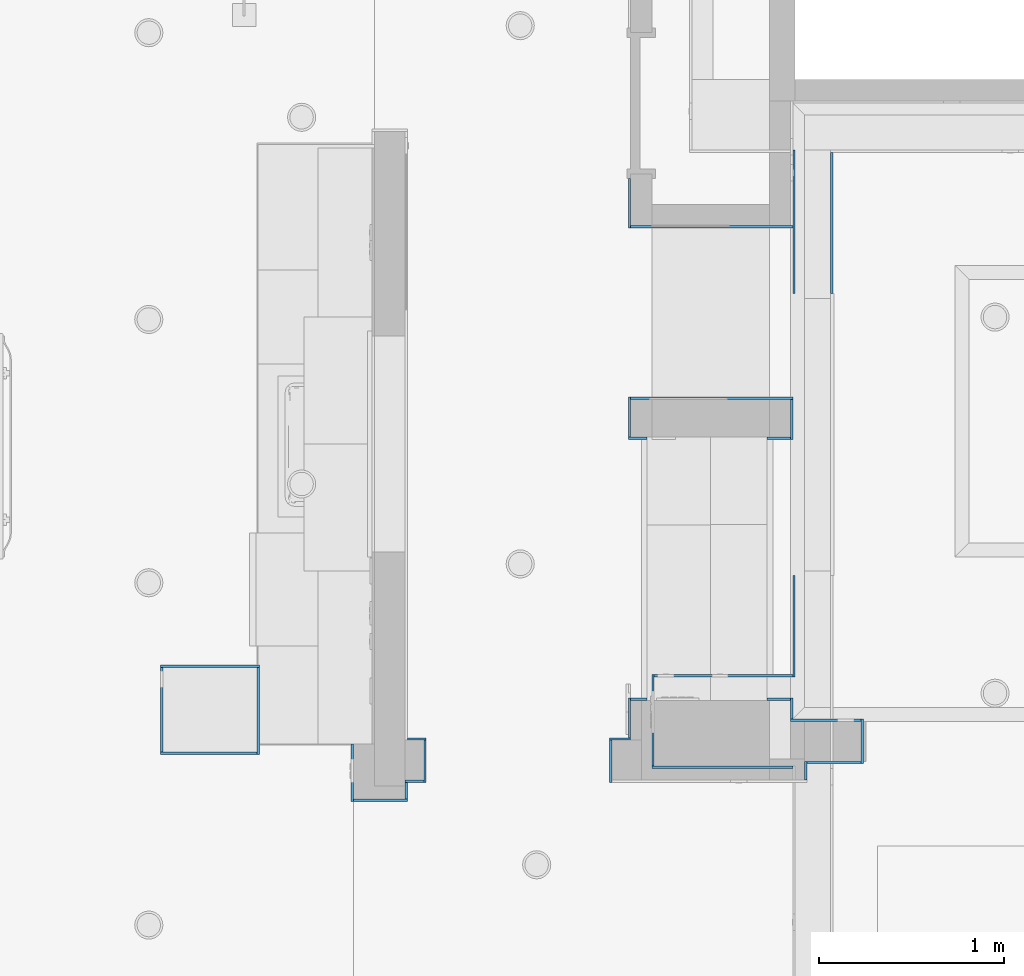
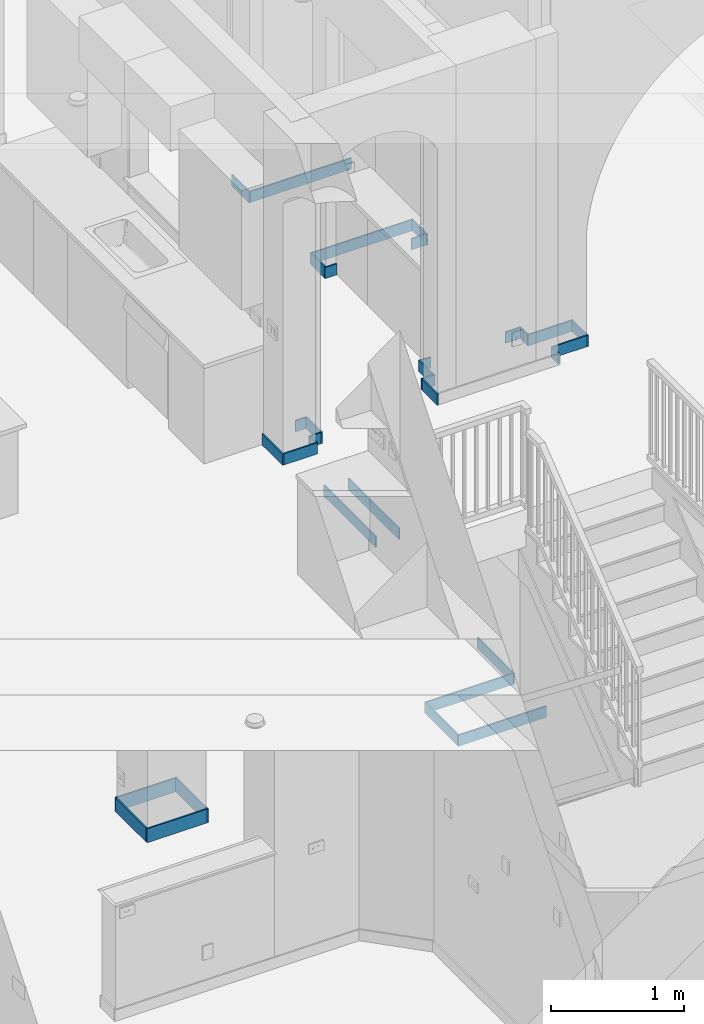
# One storey, part 17 of 60: 33 walls.
"""IFC2X3 building model written with IfcOpenShell, lengths in feet."""

import ifcopenshell
import ifcopenshell.guid

model = None  # the IFC model being written
_history = None  # IfcOwnerHistory: only IFC2X3 demands one
_inside = {}  # id of a spatial element -> (the spatial element, [elements in it])
_under = {}  # id of a project, library or spatial element -> (it, [spatial elements below it])
_declared = {}  # id of a project -> (the project, [libraries it declares])
_typed = {}  # id of a type object -> (the type object, [elements of that type])
_made_of = {}  # id of a material, layer set ... -> (it, [elements and type objects made of it])


def new_model(schema):
    """Start an empty IFC model of exactly this schema.

    Asked for "IFC4X3", IfcOpenShell would pick the latest addendum, in which some entities
    have other attributes; the version numbers below select the first issue.
    IFC2X3 requires an IfcOwnerHistory on every rooted entity: one is made here for all.
    """
    global model, _history
    if schema == "IFC4X3":
        model = ifcopenshell.file(schema_version=(4, 3, 0, 0))
    else:
        model = ifcopenshell.file(schema=schema)
    _inside.clear()
    _under.clear()
    _declared.clear()
    _typed.clear()
    _made_of.clear()
    _history = None
    if model.schema == "IFC2X3":
        org = make("IfcOrganization", Name="unknown")
        user = make(
            "IfcPersonAndOrganization",
            ThePerson=make("IfcPerson", FamilyName="unknown"),
            TheOrganization=org,
        )
        app = make(
            "IfcApplication",
            ApplicationDeveloper=org,
            Version="unknown",
            ApplicationFullName="unknown",
            ApplicationIdentifier="unknown",
        )
        _history = make(
            "IfcOwnerHistory",
            OwningUser=user,
            OwningApplication=app,
            ChangeAction="ADDED",
            CreationDate=0,
        )
    return model


def make(cls, **values):
    """One entity of the class cls with the attributes given. An attribute that is None is left unset."""
    return model.create_entity(
        cls, **{name: value for name, value in values.items() if value is not None}
    )


def entity(cls, *values):
    """Any entity or typed value of the class cls, its attributes in the order of the schema. None: left unset."""
    e = model.create_entity(cls)
    for i, value in enumerate(values):
        if value is not None:
            e[i] = value
    return e


def rooted(cls, **values):
    """An entity with a GlobalId (a new one), such as an element, a storey or a relation."""
    return make(cls, GlobalId=ifcopenshell.guid.new(), OwnerHistory=_history, **values)


def si_unit(unit_type, name, prefix=None):
    """IfcSIUnit, for example si_unit("LENGTHUNIT", "METRE", prefix="MILLI")."""
    return make("IfcSIUnit", UnitType=unit_type, Prefix=prefix, Name=name)


def converted_unit(unit_type, name, factor, base, dimensions=None, offset=None):
    """IfcConversionBasedUnit, such as the inch: factor (a typed value) times the base unit."""
    return make(
        "IfcConversionBasedUnit"
        if offset is None
        else "IfcConversionBasedUnitWithOffset",
        ConversionOffset=offset,
        Dimensions=None
        if dimensions is None
        else entity("IfcDimensionalExponents", *dimensions),
        UnitType=unit_type,
        Name=name,
        ConversionFactor=make(
            "IfcMeasureWithUnit", ValueComponent=factor, UnitComponent=base
        ),
    )


def assignment(units):
    """IfcUnitAssignment: the units of a project."""
    return None if units is None else make("IfcUnitAssignment", Units=units)


def point(xyz):
    """IfcCartesianPoint."""
    return None if xyz is None else make("IfcCartesianPoint", Coordinates=xyz)


def direction(xyz):
    """IfcDirection."""
    return None if xyz is None else make("IfcDirection", DirectionRatios=xyz)


def frame(location, z_axis=None, x_axis=None):
    """IfcAxis2Placement3D, a coordinate frame: its origin and axes. An axis left out is left unset."""
    return make(
        "IfcAxis2Placement3D",
        Location=point(location),
        Axis=direction(z_axis),
        RefDirection=direction(x_axis),
    )


def frame_2d(location, x_axis=None):
    """IfcAxis2Placement2D, a coordinate frame in the plane: its origin and x axis."""
    return make(
        "IfcAxis2Placement2D", Location=point(location), RefDirection=direction(x_axis)
    )


def origin():
    """The frame at (0, 0, 0) with its axes left unset."""
    return frame((0.0, 0.0, 0.0))


def place(relative_to, where):
    """IfcLocalPlacement: puts the frame where relative to a parent placement (None: the world)."""
    return make(
        "IfcLocalPlacement", PlacementRelTo=relative_to, RelativePlacement=where
    )


def context(
    kind, dimensions, precision=None, world=None, true_north=None, identifier=None
):
    """IfcGeometricRepresentationContext, for example the 3D "Model" context."""
    return make(
        "IfcGeometricRepresentationContext",
        ContextIdentifier=identifier,
        ContextType=kind,
        CoordinateSpaceDimension=dimensions,
        Precision=precision,
        WorldCoordinateSystem=world,
        TrueNorth=true_north,
    )


def subcontext(parent, identifier, kind, view, scale=None):
    """IfcGeometricRepresentationSubContext, for example "Body" below "Model"."""
    return make(
        "IfcGeometricRepresentationSubContext",
        ContextIdentifier=identifier,
        ContextType=kind,
        ParentContext=parent,
        TargetScale=scale,
        TargetView=view,
    )


def project(units=None, contexts=None):
    """IfcProject with its units and contexts."""
    return rooted(
        "IfcProject",
        Name="project",
        RepresentationContexts=contexts,
        UnitsInContext=assignment(units),
    )


def spatial(cls, under=None, at=None, **own):
    """A site, building, storey or space (cls), placed at a placement, below another one or the project."""
    s = rooted(cls, ObjectPlacement=at, **own)
    if under is not None:
        _under.setdefault(under.id(), (under, []))[1].append(s)
    return s


def profile(cls, at=None, kind="AREA", **sizes):
    """A parametric profile (cls). Its sizes go by their IFC names, for example OverallWidth=200.0."""
    return make(cls, ProfileType=kind, Position=at, **sizes)


def rectangle(**sizes):
    """IfcRectangleProfileDef."""
    return profile("IfcRectangleProfileDef", **sizes)


def extrude(swept, where, along, depth):
    """IfcExtrudedAreaSolid: the profile swept, set in the frame where, extruded along a direction by depth."""
    return make(
        "IfcExtrudedAreaSolid",
        SweptArea=swept,
        Position=where,
        ExtrudedDirection=direction(along),
        Depth=depth,
    )


def shape(context_of_items, identifier, shape_type, items):
    """IfcShapeRepresentation: the items that make up one representation, for example the "Body"."""
    return make(
        "IfcShapeRepresentation",
        ContextOfItems=context_of_items,
        RepresentationIdentifier=identifier,
        RepresentationType=shape_type,
        Items=items,
    )


def material(Name=None, Category=None):
    """IfcMaterial."""
    return make("IfcMaterial", Name=Name, Category=Category)


def layer(
    of_material, thickness, ventilated=None, Name=None, Category=None, Priority=None
):
    """IfcMaterialLayer: one layer of a wall or slab, of a material (None: an air gap)."""
    return make(
        "IfcMaterialLayer",
        Material=of_material,
        LayerThickness=thickness,
        IsVentilated=ventilated,
        Name=Name,
        Category=Category,
        Priority=Priority,
    )


def layer_set(layers, Name=None):
    """IfcMaterialLayerSet."""
    return make("IfcMaterialLayerSet", MaterialLayers=layers, LayerSetName=Name)


def layer_usage(for_layer_set, set_direction, sense, offset, extent=None):
    """IfcMaterialLayerSetUsage: how a layer set lies in its element."""
    return make(
        "IfcMaterialLayerSetUsage",
        ForLayerSet=for_layer_set,
        LayerSetDirection=set_direction,
        DirectionSense=sense,
        OffsetFromReferenceLine=offset,
        ReferenceExtent=extent,
    )


def made_of(thing, what):
    """Note that an element or type object is made of a material, layer set ...; save() writes the relation."""
    if what is not None:
        _made_of.setdefault(what.id(), (what, []))[1].append(thing)
    return thing


def type_object(cls, material=None, **own):
    """A type object (cls), such as IfcWallType, which elements share."""
    return made_of(rooted(cls, **own), material)


def element(
    cls,
    number,
    at=None,
    inside=None,
    cuts=None,
    type_object=None,
    material=None,
    context=None,
    identifier="Body",
    shape_type=None,
    held_by="IfcProductDefinitionShape",
    body=None,
    shapes=None,
    **own,
):
    """One element of the class cls, such as IfcWall. Its Tag is "e" and its number.

    at: its placement. inside: the storey or other place that contains it. cuts: it is an
    opening in that element (IfcRelVoidsElement). A single representation is given by context,
    identifier, shape_type and body (its items); several are given by shapes. held_by: the class
    of the entity that holds the representations. save() writes the other relations.
    """
    e = rooted(cls, Tag="e%d" % number, ObjectPlacement=at, **own)
    if body is not None:
        shapes = [shape(context, identifier, shape_type, body)]
    if shapes is not None:
        e.Representation = make(held_by, Representations=shapes)
    if inside is not None:
        _inside.setdefault(inside.id(), (inside, []))[1].append(e)
    if cuts is not None:
        rooted(
            "IfcRelVoidsElement", RelatingBuildingElement=cuts, RelatedOpeningElement=e
        )
    if type_object is not None:
        _typed.setdefault(type_object.id(), (type_object, []))[1].append(e)
    return made_of(e, material)


def aggregate(whole, parts):
    """IfcRelAggregates: a whole, such as a stair, and the parts it consists of."""
    return rooted("IfcRelAggregates", RelatingObject=whole, RelatedObjects=parts)


def save(model, path):
    """Write the relations noted so far, then the file.

    IfcRelAggregates (storeys below a building ...), IfcRelContainedInSpatialStructure (elements
    in a storey), IfcRelDefinesByType, IfcRelAssociatesMaterial and IfcRelDeclares: one each for
    every whole, place, type object, material and project.
    """
    for whole, parts in _under.values():
        aggregate(whole, parts)
    for where, things in _inside.values():
        rooted(
            "IfcRelContainedInSpatialStructure",
            RelatedElements=things,
            RelatingStructure=where,
        )
    for kind, things in _typed.values():
        rooted("IfcRelDefinesByType", RelatedObjects=things, RelatingType=kind)
    for what, things in _made_of.values():
        rooted("IfcRelAssociatesMaterial", RelatedObjects=things, RelatingMaterial=what)
    for by, libraries in _declared.values():
        rooted("IfcRelDeclares", RelatingContext=by, RelatedDefinitions=libraries)
    model.write(path)


model = new_model("IFC2X3")

# Units and contexts
model_context = context("Model", 3, precision=0.0001, world=origin(), true_north=direction((6.123031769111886e-17, 1.0)))
plan_context = context("Plan", 3, precision=0.0001, world=origin(), true_north=direction((6.123031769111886e-17, 1.0)))
body_context = subcontext(model_context, "Body", "Model", "MODEL_VIEW")
ifc_project = project(units=[converted_unit("LENGTHUNIT", "FOOT", entity("IfcLengthMeasure", 0.3048), si_unit("LENGTHUNIT", "METRE"), dimensions=[1, 0, 0, 0, 0, 0, 0]), converted_unit("AREAUNIT", "SQUARE FOOT", entity("IfcAreaMeasure", 0.09290304), si_unit("AREAUNIT", "SQUARE_METRE"), dimensions=[2, 0, 0, 0, 0, 0, 0]), converted_unit("PLANEANGLEUNIT", "DEGREE", entity("IfcPlaneAngleMeasure", 0.017453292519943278), si_unit("PLANEANGLEUNIT", "RADIAN"), dimensions=[0, 0, 0, 0, 0, 0, 0])], contexts=[model_context, plan_context])

# Site, building, storey
site_placement = place(None, origin())
site = spatial("IfcSite", under=ifc_project, at=site_placement, Name="Default", CompositionType="ELEMENT")
building_placement = place(site_placement, origin())
building = spatial("IfcBuilding", under=site, at=building_placement, CompositionType="ELEMENT")
storey_placement = place(building_placement, origin())
storey = spatial("IfcBuildingStorey", under=building, at=storey_placement, Name="First floor", CompositionType="ELEMENT", Elevation=0.0)

# Walls
ifc_material = material(Name="Default New Material")
ifc_layer = layer(ifc_material, 0.041666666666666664)
ifc_layer_set = layer_set([ifc_layer], Name="Basic Wall:Wall Border_T1")
ifc_layer_usage_1 = layer_usage(ifc_layer_set, "AXIS2", "NEGATIVE", 0.020833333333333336)
wall_type = type_object("IfcWallType", Name="Basic Wall:Wall Border_T1", PredefinedType="STANDARD", material=ifc_layer_set)
wall_1_placement = place(storey_placement, frame((21.020833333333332, 26.833333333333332, 0.0), z_axis=(0.0, 0.0, 1.0), x_axis=(0.0, -1.0, 0.0)))
element("IfcWallStandardCase", 1, at=wall_1_placement, inside=storey, type_object=wall_type, material=ifc_layer_usage_1, Name="Basic Wall:Wall Border_T1", ObjectType="Basic Wall:Wall Border_T1", context=body_context, shape_type="SweptSolid", body=[
    extrude(rectangle(XDim=2.4999999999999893, YDim=0.0416666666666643, at=frame_2d((1.2499999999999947, -1.1102230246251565e-16), x_axis=(-1.0, 0.0))), origin(), (0.0, 0.0, 1.0), 0.3333333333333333),
])
ifc_layer_usage_2 = layer_usage(ifc_layer_set, "AXIS2", "POSITIVE", -0.020833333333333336)
wall_2_placement = place(storey_placement, frame((20.354166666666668, 26.875, 0.0), z_axis=(0.0, 0.0, 1.0), x_axis=(0.0, -1.0, 0.0)))
element("IfcWallStandardCase", 2, at=wall_2_placement, inside=storey, type_object=wall_type, material=ifc_layer_usage_2, Name="Basic Wall:Wall Border_T1", ObjectType="Basic Wall:Wall Border_T1", context=body_context, shape_type="SweptSolid", body=[
    extrude(rectangle(XDim=2.5416666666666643, YDim=0.0416666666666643, at=frame_2d((1.2708333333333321, 1.5785983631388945e-16), x_axis=(-1.0, 0.0))), origin(), (0.0, 0.0, 1.0), 0.3333333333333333),
])
ifc_layer_usage_3 = layer_usage(ifc_layer_set, "AXIS2", "POSITIVE", -0.020833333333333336)
wall_3_placement = place(storey_placement, frame((20.354166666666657, 19.33333333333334, 0.0), z_axis=(0.0, 0.0, 1.0), x_axis=(0.0, -1.0, 0.0)))
element("IfcWallStandardCase", 3, at=wall_3_placement, inside=storey, type_object=wall_type, material=ifc_layer_usage_3, Name="Basic Wall:Wall Border_T1", ObjectType="Basic Wall:Wall Border_T1", context=body_context, shape_type="SweptSolid", body=[
    extrude(rectangle(XDim=1.7916666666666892, YDim=0.0416666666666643, at=frame_2d((0.8958333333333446, -4.128641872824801e-16), x_axis=(-1.0, 0.0))), origin(), (0.0, 0.0, 1.0), 0.3333333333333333),
])
ifc_layer_usage_4 = layer_usage(ifc_layer_set, "AXIS2", "NEGATIVE", 0.020833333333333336)
wall_4_placement = place(storey_placement, frame((13.500000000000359, 16.43715483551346, 10.666666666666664)))
element("IfcWallStandardCase", 4, at=wall_4_placement, inside=storey, type_object=wall_type, material=ifc_layer_usage_4, Name="Basic Wall:Wall Border_T1", ObjectType="Basic Wall:Wall Border_T1", context=body_context, shape_type="SweptSolid", body=[
    extrude(rectangle(XDim=0.3333333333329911, YDim=0.0416666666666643, at=frame_2d((0.16666666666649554, 0.0), x_axis=(-1.0, 0.0))), origin(), (0.0, 0.0, 1.0), 0.3333333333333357),
])
ifc_layer_usage_5 = layer_usage(ifc_layer_set, "AXIS2", "NEGATIVE", 0.020833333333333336)
wall_5_placement = place(storey_placement, frame((13.812500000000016, 16.416321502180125, 10.666666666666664), z_axis=(0.0, 0.0, 1.0), x_axis=(0.0, -1.0, 0.0)))
element("IfcWallStandardCase", 5, at=wall_5_placement, inside=storey, type_object=wall_type, material=ifc_layer_usage_5, Name="Basic Wall:Wall Border_T1", ObjectType="Basic Wall:Wall Border_T1", context=body_context, shape_type="SweptSolid", body=[
    extrude(rectangle(XDim=0.75, YDim=0.04166666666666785, at=frame_2d((0.375, -2.2898349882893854e-16), x_axis=(-1.0, 0.0))), origin(), (0.0, 0.0, 1.0), 0.3333333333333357),
])
ifc_layer_usage_6 = layer_usage(ifc_layer_set, "AXIS2", "NEGATIVE", 0.020833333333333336)
wall_6_placement = place(storey_placement, frame((13.791666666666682, 15.687154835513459, 10.666666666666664), z_axis=(0.0, 0.0, 1.0), x_axis=(-1.0, 0.0, 0.0)))
element("IfcWallStandardCase", 6, at=wall_6_placement, inside=storey, type_object=wall_type, material=ifc_layer_usage_6, Name="Basic Wall:Wall Border_T1", ObjectType="Basic Wall:Wall Border_T1", context=body_context, shape_type="SweptSolid", body=[
    extrude(rectangle(XDim=0.33333333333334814, YDim=0.04166666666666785, at=frame_2d((0.16666666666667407, 3.5908775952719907e-16), x_axis=(-1.0, 0.0))), origin(), (0.0, 0.0, 1.0), 0.3333333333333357),
])
ifc_layer_usage_7 = layer_usage(ifc_layer_set, "AXIS2", "POSITIVE", -0.020833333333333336)
wall_7_placement = place(storey_placement, frame((17.43750000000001, 26.3746548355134, 10.666666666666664), z_axis=(0.0, 0.0, 1.0), x_axis=(0.0, -1.0, 0.0)))
element("IfcWallStandardCase", 7, at=wall_7_placement, inside=storey, type_object=wall_type, material=ifc_layer_usage_7, Name="Basic Wall:Wall Border_T1", ObjectType="Basic Wall:Wall Border_T1", context=body_context, shape_type="SweptSolid", body=[
    extrude(rectangle(XDim=0.8749999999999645, YDim=0.0416666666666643, at=frame_2d((0.43749999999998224, 0.0), x_axis=(-1.0, 0.0))), origin(), (0.0, 0.0, 1.0), 0.3333333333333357),
])
ifc_layer_usage_8 = layer_usage(ifc_layer_set, "AXIS2", "POSITIVE", -0.020833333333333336)
wall_8_placement = place(storey_placement, frame((17.458333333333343, 25.52048816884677, 10.666666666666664)))
element("IfcWallStandardCase", 8, at=wall_8_placement, inside=storey, type_object=wall_type, material=ifc_layer_usage_8, Name="Basic Wall:Wall Border_T1", ObjectType="Basic Wall:Wall Border_T1", context=body_context, shape_type="SweptSolid", body=[
    extrude(rectangle(XDim=2.874999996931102, YDim=0.0416666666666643, at=frame_2d((1.437499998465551, 7.806255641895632e-17), x_axis=(-1.0, 0.0))), origin(), (0.0, 0.0, 1.0), 0.3333333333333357),
])
ifc_layer_usage_9 = layer_usage(ifc_layer_set, "AXIS2", "NEGATIVE", 0.020833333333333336)
wall_9_placement = place(storey_placement, frame((17.083333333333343, 16.437154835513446, 10.666666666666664)))
element("IfcWallStandardCase", 9, at=wall_9_placement, inside=storey, type_object=wall_type, material=ifc_layer_usage_9, Name="Basic Wall:Wall Border_T1", ObjectType="Basic Wall:Wall Border_T1", context=body_context, shape_type="SweptSolid", body=[
    extrude(rectangle(XDim=0.37499999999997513, YDim=0.0416666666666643, at=frame_2d((0.18749999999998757, 0.0), x_axis=(-1.0, 0.0))), origin(), (0.0, 0.0, 1.0), 0.3333333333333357),
])
ifc_layer_usage_10 = layer_usage(ifc_layer_set, "AXIS2", "NEGATIVE", 0.020833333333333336)
wall_10_placement = place(storey_placement, frame((17.437499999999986, 16.45798816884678, 10.666666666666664), z_axis=(0.0, 0.0, 1.0), x_axis=(0.0, 1.0, 0.0)))
element("IfcWallStandardCase", 10, at=wall_10_placement, inside=storey, type_object=wall_type, material=ifc_layer_usage_10, Name="Basic Wall:Wall Border_T1", ObjectType="Basic Wall:Wall Border_T1", context=body_context, shape_type="SweptSolid", body=[
    extrude(rectangle(XDim=0.708333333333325, YDim=0.0416666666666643, at=frame_2d((0.3541666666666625, 0.0), x_axis=(-1.0, 0.0))), origin(), (0.0, 0.0, 1.0), 0.3333333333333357),
])
ifc_layer_usage_11 = layer_usage(ifc_layer_set, "AXIS2", "POSITIVE", -0.020833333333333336)
wall_11_placement = place(storey_placement, frame((17.10416666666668, 16.41632150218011, 10.666666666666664), z_axis=(0.0, 0.0, 1.0), x_axis=(0.0, -1.0, 0.0)))
element("IfcWallStandardCase", 11, at=wall_11_placement, inside=storey, type_object=wall_type, material=ifc_layer_usage_11, Name="Basic Wall:Wall Border_T1", ObjectType="Basic Wall:Wall Border_T1", context=body_context, shape_type="SweptSolid", body=[
    extrude(rectangle(XDim=0.7499999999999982, YDim=0.0416666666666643, at=frame_2d((0.3749999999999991, 0.0), x_axis=(-1.0, 0.0))), origin(), (0.0, 0.0, 1.0), 0.3333333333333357),
])
ifc_layer_usage_12 = layer_usage(ifc_layer_set, "AXIS2", "POSITIVE", -0.020833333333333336)
wall_12_placement = place(storey_placement, frame((20.562499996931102, 15.707988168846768, 10.666666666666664), z_axis=(0.0, 0.0, 1.0), x_axis=(0.0, 1.0, 0.0)))
element("IfcWallStandardCase", 12, at=wall_12_placement, inside=storey, type_object=wall_type, material=ifc_layer_usage_12, Name="Basic Wall:Wall Border_T1", ObjectType="Basic Wall:Wall Border_T1", context=body_context, shape_type="SweptSolid", body=[
    extrude(rectangle(XDim=0.3336788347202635, YDim=0.0416666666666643, at=frame_2d((0.16683941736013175, 0.0), x_axis=(-1.0, 0.0))), origin(), (0.0, 0.0, 1.0), 0.3333333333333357),
])
ifc_layer_usage_13 = layer_usage(ifc_layer_set, "AXIS2", "POSITIVE", -0.020833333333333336)
wall_13_placement = place(storey_placement, frame((20.583333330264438, 16.0208336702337, 10.666666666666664)))
element("IfcWallStandardCase", 13, at=wall_13_placement, inside=storey, type_object=wall_type, material=ifc_layer_usage_13, Name="Basic Wall:Wall Border_T1", ObjectType="Basic Wall:Wall Border_T1", context=body_context, shape_type="SweptSolid", body=[
    extrude(rectangle(XDim=0.9588346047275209, YDim=0.0416666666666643, at=frame_2d((0.47941730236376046, -7.45931094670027e-17), x_axis=(-1.0, 0.0))), origin(), (0.0, 0.0, 1.0), 0.3333333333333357),
])
ifc_layer_usage_14 = layer_usage(ifc_layer_set, "AXIS2", "POSITIVE", -0.020833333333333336)
wall_14_placement = place(storey_placement, frame((21.542167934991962, 16.770833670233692, 10.666666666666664), z_axis=(0.0, 0.0, 1.0), x_axis=(-1.0, 0.0, 0.0)))
element("IfcWallStandardCase", 14, at=wall_14_placement, inside=storey, type_object=wall_type, material=ifc_layer_usage_14, Name="Basic Wall:Wall Border_T1", ObjectType="Basic Wall:Wall Border_T1", context=body_context, shape_type="SweptSolid", body=[
    extrude(rectangle(XDim=1.2505012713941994, YDim=0.0416666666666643, at=frame_2d((0.6252506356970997, -5.724587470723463e-17), x_axis=(-1.0, 0.0))), origin(), (0.0, 0.0, 1.0), 0.3333333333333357),
])
ifc_layer_usage_15 = layer_usage(ifc_layer_set, "AXIS2", "POSITIVE", -0.020833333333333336)
wall_15_placement = place(storey_placement, frame((20.312499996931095, 16.79166700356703, 10.666666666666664), z_axis=(0.0, 0.0, 1.0), x_axis=(0.0, 1.0, 0.0)))
element("IfcWallStandardCase", 15, at=wall_15_placement, inside=storey, type_object=wall_type, material=ifc_layer_usage_15, Name="Basic Wall:Wall Border_T1", ObjectType="Basic Wall:Wall Border_T1", context=body_context, shape_type="SweptSolid", body=[
    extrude(rectangle(XDim=0.37465449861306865, YDim=0.0416666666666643, at=frame_2d((0.18732724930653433, 0.0), x_axis=(-1.0, 0.0))), origin(), (0.0, 0.0, 1.0), 0.3333333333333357),
])
ifc_layer_usage_16 = layer_usage(ifc_layer_set, "AXIS2", "POSITIVE", -0.020833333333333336)
wall_16_placement = place(storey_placement, frame((20.291666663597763, 17.145488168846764, 10.666666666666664), z_axis=(0.0, 0.0, 1.0), x_axis=(-1.0, 0.0, 0.0)))
element("IfcWallStandardCase", 16, at=wall_16_placement, inside=storey, type_object=wall_type, material=ifc_layer_usage_16, Name="Basic Wall:Wall Border_T1", ObjectType="Basic Wall:Wall Border_T1", context=body_context, shape_type="SweptSolid", body=[
    extrude(rectangle(XDim=0.41666666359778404, YDim=0.0416666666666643, at=frame_2d((0.20833333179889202, 0.0), x_axis=(-1.0, 0.0))), origin(), (0.0, 0.0, 1.0), 0.3333333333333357),
])
ifc_layer_usage_17 = layer_usage(ifc_layer_set, "AXIS2", "NEGATIVE", 0.020833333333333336)
wall_17_placement = place(storey_placement, frame((17.75000000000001, 21.770488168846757, 10.666666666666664), z_axis=(0.0, 0.0, 1.0), x_axis=(-1.0, 0.0, 0.0)))
element("IfcWallStandardCase", 17, at=wall_17_placement, inside=storey, type_object=wall_type, material=ifc_layer_usage_17, Name="Basic Wall:Wall Border_T1", ObjectType="Basic Wall:Wall Border_T1", context=body_context, shape_type="SweptSolid", body=[
    extrude(rectangle(XDim=0.3333333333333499, YDim=0.0416666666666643, at=frame_2d((0.16666666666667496, 0.0), x_axis=(-1.0, 0.0))), origin(), (0.0, 0.0, 1.0), 0.3333333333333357),
])
ifc_layer_usage_18 = layer_usage(ifc_layer_set, "AXIS2", "NEGATIVE", 0.020833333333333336)
wall_18_placement = place(storey_placement, frame((17.437499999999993, 21.791321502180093, 10.666666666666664), z_axis=(0.0, 0.0, 1.0), x_axis=(0.0, 1.0, 0.0)))
element("IfcWallStandardCase", 18, at=wall_18_placement, inside=storey, type_object=wall_type, material=ifc_layer_usage_18, Name="Basic Wall:Wall Border_T1", ObjectType="Basic Wall:Wall Border_T1", context=body_context, shape_type="SweptSolid", body=[
    extrude(rectangle(XDim=0.7083333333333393, YDim=0.0416666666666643, at=frame_2d((0.3541666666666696, 0.0), x_axis=(-1.0, 0.0))), origin(), (0.0, 0.0, 1.0), 0.3333333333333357),
])
ifc_layer_usage_19 = layer_usage(ifc_layer_set, "AXIS2", "NEGATIVE", 0.020833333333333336)
wall_19_placement = place(storey_placement, frame((17.45833333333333, 22.4788215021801, 10.666666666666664)))
element("IfcWallStandardCase", 19, at=wall_19_placement, inside=storey, type_object=wall_type, material=ifc_layer_usage_19, Name="Basic Wall:Wall Border_T1", ObjectType="Basic Wall:Wall Border_T1", context=body_context, shape_type="SweptSolid", body=[
    extrude(rectangle(XDim=2.874999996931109, YDim=0.0416666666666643, at=frame_2d((1.4374999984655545, 7.806255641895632e-17), x_axis=(-1.0, 0.0))), origin(), (0.0, 0.0, 1.0), 0.3333333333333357),
])
ifc_layer_usage_20 = layer_usage(ifc_layer_set, "AXIS2", "NEGATIVE", 0.020833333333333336)
wall_20_placement = place(storey_placement, frame((20.312499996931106, 22.457988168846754, 10.666666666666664), z_axis=(0.0, 0.0, 1.0), x_axis=(0.0, -1.0, 0.0)))
element("IfcWallStandardCase", 20, at=wall_20_placement, inside=storey, type_object=wall_type, material=ifc_layer_usage_20, Name="Basic Wall:Wall Border_T1", ObjectType="Basic Wall:Wall Border_T1", context=body_context, shape_type="SweptSolid", body=[
    extrude(rectangle(XDim=0.7083333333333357, YDim=0.0416666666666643, at=frame_2d((0.35416666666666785, 0.0), x_axis=(-1.0, 0.0))), origin(), (0.0, 0.0, 1.0), 0.3333333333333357),
])
ifc_layer_usage_21 = layer_usage(ifc_layer_set, "AXIS2", "NEGATIVE", 0.020833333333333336)
wall_21_placement = place(storey_placement, frame((20.29166666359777, 21.77048816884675, 10.666666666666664), z_axis=(0.0, 0.0, 1.0), x_axis=(-1.0, 0.0, 0.0)))
element("IfcWallStandardCase", 21, at=wall_21_placement, inside=storey, type_object=wall_type, material=ifc_layer_usage_21, Name="Basic Wall:Wall Border_T1", ObjectType="Basic Wall:Wall Border_T1", context=body_context, shape_type="SweptSolid", body=[
    extrude(rectangle(XDim=0.4166666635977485, YDim=0.0416666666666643, at=frame_2d((0.20833333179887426, 0.0), x_axis=(-1.0, 0.0))), origin(), (0.0, 0.0, 1.0), 0.3333333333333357),
])
ifc_layer_usage_22 = layer_usage(ifc_layer_set, "AXIS2", "POSITIVE", -0.020833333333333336)
wall_22_placement = place(storey_placement, frame((12.520833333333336, 16.35382150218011, 10.666666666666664), z_axis=(0.0, 0.0, 1.0), x_axis=(0.0, -1.0, 0.0)))
element("IfcWallStandardCase", 22, at=wall_22_placement, inside=storey, type_object=wall_type, material=ifc_layer_usage_22, Name="Basic Wall:Wall Border_T1", ObjectType="Basic Wall:Wall Border_T1", context=body_context, shape_type="SweptSolid", body=[
    extrude(rectangle(XDim=1.020833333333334, YDim=0.04166666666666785, at=frame_2d((0.510416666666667, 5.724587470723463e-17), x_axis=(-1.0, 0.0))), origin(), (0.0, 0.0, 1.0), 0.3333333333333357),
])
ifc_layer_usage_23 = layer_usage(ifc_layer_set, "AXIS2", "POSITIVE", -0.020833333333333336)
wall_23_placement = place(storey_placement, frame((12.541666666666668, 15.353821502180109, 10.666666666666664)))
element("IfcWallStandardCase", 23, at=wall_23_placement, inside=storey, type_object=wall_type, material=ifc_layer_usage_23, Name="Basic Wall:Wall Border_T1", ObjectType="Basic Wall:Wall Border_T1", context=body_context, shape_type="SweptSolid", body=[
    extrude(rectangle(XDim=0.9583333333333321, YDim=0.04166666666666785, at=frame_2d((0.4791666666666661, 8.153200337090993e-17), x_axis=(-1.0, 0.0))), origin(), (0.0, 0.0, 1.0), 0.3333333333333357),
])
ifc_layer_usage_24 = layer_usage(ifc_layer_set, "AXIS2", "POSITIVE", -0.020833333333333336)
wall_24_placement = place(storey_placement, frame((17.45833333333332, 17.14548816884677, 10.666666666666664)))
element("IfcWallStandardCase", 24, at=wall_24_placement, inside=storey, type_object=wall_type, material=ifc_layer_usage_24, Name="Basic Wall:Wall Border_T1", ObjectType="Basic Wall:Wall Border_T1", context=body_context, shape_type="SweptSolid", body=[
    extrude(rectangle(XDim=0.2916666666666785, YDim=0.0416666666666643, at=frame_2d((0.14583333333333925, 0.0), x_axis=(-1.0, 0.0))), origin(), (0.0, 0.0, 1.0), 0.3333333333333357),
])
ifc_layer_usage_25 = layer_usage(ifc_layer_set, "AXIS2", "NEGATIVE", 0.020833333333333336)
wall_25_placement = place(storey_placement, frame((20.333333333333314, 15.937499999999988, 0.0), z_axis=(0.0, 0.0, 1.0), x_axis=(-1.0, 0.0, 0.0)))
element("IfcWallStandardCase", 25, at=wall_25_placement, inside=storey, type_object=wall_type, material=ifc_layer_usage_25, Name="Basic Wall:Wall Border_T1", ObjectType="Basic Wall:Wall Border_T1", context=body_context, shape_type="SweptSolid", body=[
    extrude(rectangle(XDim=2.5000000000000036, YDim=0.04166666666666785, at=frame_2d((1.2500000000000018, -6.626643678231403e-16), x_axis=(-1.0, 0.0))), origin(), (0.0, 0.0, 1.0), 0.3333333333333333),
])
ifc_layer_usage_26 = layer_usage(ifc_layer_set, "AXIS2", "NEGATIVE", 0.020833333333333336)
wall_26_placement = place(storey_placement, frame((17.854166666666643, 15.958333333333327, 0.0), z_axis=(0.0, 0.0, 1.0), x_axis=(0.0, 1.0, 0.0)))
element("IfcWallStandardCase", 26, at=wall_26_placement, inside=storey, type_object=wall_type, material=ifc_layer_usage_26, Name="Basic Wall:Wall Border_T1", ObjectType="Basic Wall:Wall Border_T1", context=body_context, shape_type="SweptSolid", body=[
    extrude(rectangle(XDim=1.6250000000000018, YDim=0.0416666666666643, at=frame_2d((0.8125000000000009, 1.0824674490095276e-15), x_axis=(-1.0, 0.0))), origin(), (0.0, 0.0, 1.0), 0.3333333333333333),
])
ifc_layer_usage_27 = layer_usage(ifc_layer_set, "AXIS2", "NEGATIVE", 0.020833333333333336)
wall_27_placement = place(storey_placement, frame((20.333333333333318, 17.562499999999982, 0.0), z_axis=(0.0, 0.0, 1.0), x_axis=(-1.0, 0.0, 0.0)))
element("IfcWallStandardCase", 27, at=wall_27_placement, inside=storey, type_object=wall_type, material=ifc_layer_usage_27, Name="Basic Wall:Wall Border_T1", ObjectType="Basic Wall:Wall Border_T1", context=body_context, shape_type="SweptSolid", body=[
    extrude(rectangle(XDim=2.458333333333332, YDim=0.0416666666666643, at=frame_2d((1.229166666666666, -6.696032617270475e-16), x_axis=(-1.0, 0.0))), origin(), (0.0, 0.0, 1.0), 0.3333333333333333),
])
ifc_layer_usage_28 = layer_usage(ifc_layer_set, "AXIS2", "NEGATIVE", 0.020833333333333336)
wall_28_placement = place(storey_placement, frame((13.479166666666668, 15.37465483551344, 10.666666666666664), z_axis=(0.0, 0.0, 1.0), x_axis=(0.0, 1.0, 0.0)))
element("IfcWallStandardCase", 28, at=wall_28_placement, inside=storey, type_object=wall_type, material=ifc_layer_usage_28, Name="Basic Wall:Wall Border_T1", ObjectType="Basic Wall:Wall Border_T1", context=body_context, shape_type="SweptSolid", body=[
    extrude(rectangle(XDim=0.2916666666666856, YDim=0.04166666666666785, at=frame_2d((0.1458333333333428, 0.0), x_axis=(-1.0, 0.0))), origin(), (0.0, 0.0, 1.0), 0.3333333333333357),
])
ifc_layer_usage_29 = layer_usage(ifc_layer_set, "AXIS2", "NEGATIVE", 0.020833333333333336)
wall_29_placement = place(storey_placement, frame((21.56300126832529, 16.00000033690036, 10.666666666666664), z_axis=(0.0, 0.0, 1.0), x_axis=(0.0, 1.0, 0.0)))
element("IfcWallStandardCase", 29, at=wall_29_placement, inside=storey, type_object=wall_type, material=ifc_layer_usage_29, Name="Basic Wall:Wall Border_T1", ObjectType="Basic Wall:Wall Border_T1", context=body_context, shape_type="SweptSolid", body=[
    extrude(rectangle(XDim=0.7916666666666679, YDim=0.0416666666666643, at=frame_2d((0.3958333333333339, 0.0), x_axis=(-1.0, 0.0))), origin(), (0.0, 0.0, 1.0), 0.3333333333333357),
])
ifc_layer_usage_30 = layer_usage(ifc_layer_set, "AXIS2", "NEGATIVE", 0.020833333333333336)
wall_30_placement = place(storey_placement, frame((9.125000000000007, 17.729166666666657, 0.0)))
element("IfcWallStandardCase", 30, at=wall_30_placement, inside=storey, type_object=wall_type, material=ifc_layer_usage_30, Name="Basic Wall:Wall Border_T1", ObjectType="Basic Wall:Wall Border_T1", context=body_context, shape_type="SweptSolid", body=[
    extrude(rectangle(XDim=1.75, YDim=0.0416666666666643, at=frame_2d((0.875, 1.7694179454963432e-16), x_axis=(-1.0, 0.0))), origin(), (0.0, 0.0, 1.0), 0.4166666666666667),
])
ifc_layer_usage_31 = layer_usage(ifc_layer_set, "AXIS2", "NEGATIVE", 0.020833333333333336)
wall_31_placement = place(storey_placement, frame((10.854166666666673, 17.708333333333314, 0.0), z_axis=(0.0, 0.0, 1.0), x_axis=(0.0, -1.0, 0.0)))
element("IfcWallStandardCase", 31, at=wall_31_placement, inside=storey, type_object=wall_type, material=ifc_layer_usage_31, Name="Basic Wall:Wall Border_T1", ObjectType="Basic Wall:Wall Border_T1", context=body_context, shape_type="SweptSolid", body=[
    extrude(rectangle(XDim=1.5416666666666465, YDim=0.04166666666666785, at=frame_2d((0.7708333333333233, 2.42861286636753e-17), x_axis=(-1.0, 0.0))), origin(), (0.0, 0.0, 1.0), 0.4166666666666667),
])
ifc_layer_usage_32 = layer_usage(ifc_layer_set, "AXIS2", "NEGATIVE", 0.020833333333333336)
wall_32_placement = place(storey_placement, frame((10.83333333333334, 16.1875, 0.0), z_axis=(0.0, 0.0, 1.0), x_axis=(-1.0, 0.0, 0.0)))
element("IfcWallStandardCase", 32, at=wall_32_placement, inside=storey, type_object=wall_type, material=ifc_layer_usage_32, Name="Basic Wall:Wall Border_T1", ObjectType="Basic Wall:Wall Border_T1", context=body_context, shape_type="SweptSolid", body=[
    extrude(rectangle(XDim=1.7083333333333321, YDim=0.0416666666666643, at=frame_2d((0.8541666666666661, 8.847089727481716e-17), x_axis=(-1.0, 0.0))), origin(), (0.0, 0.0, 1.0), 0.4166666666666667),
])
ifc_layer_usage_33 = layer_usage(ifc_layer_set, "AXIS2", "NEGATIVE", 0.020833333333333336)
wall_33_placement = place(storey_placement, frame((9.145833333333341, 16.208333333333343, 0.0), z_axis=(0.0, 0.0, 1.0), x_axis=(0.0, 1.0, 0.0)))
element("IfcWallStandardCase", 33, at=wall_33_placement, inside=storey, type_object=wall_type, material=ifc_layer_usage_33, Name="Basic Wall:Wall Border_T1", ObjectType="Basic Wall:Wall Border_T1", context=body_context, shape_type="SweptSolid", body=[
    extrude(rectangle(XDim=1.4999999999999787, YDim=0.04166666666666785, at=frame_2d((0.7499999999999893, 0.0), x_axis=(-1.0, 0.0))), origin(), (0.0, 0.0, 1.0), 0.4166666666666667),
])

save(model, "model.ifc")
